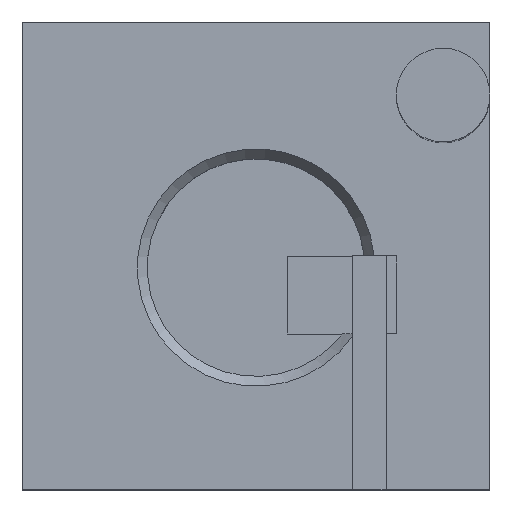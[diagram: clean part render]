
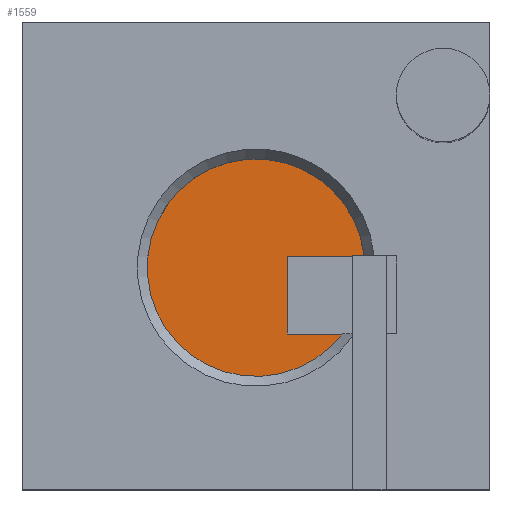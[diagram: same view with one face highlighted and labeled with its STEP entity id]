
A CAD part, top view. The second image highlights one B-rep face of the part: STEP entity #1559.
In plain terms, the highlighted planar face has unit normal (0, 0, 1).
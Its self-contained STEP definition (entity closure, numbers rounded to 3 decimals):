
#249 = PLANE('',#250);
#250 = AXIS2_PLACEMENT_3D('',#251,#252,#253);
#251 = CARTESIAN_POINT('',(-82.618,-32.6,-12.3));
#252 = DIRECTION('',(1.,0.,-0.));
#253 = DIRECTION('',(0.,0.,1.));
#471 = PLANE('',#472);
#472 = AXIS2_PLACEMENT_3D('',#473,#474,#475);
#473 = CARTESIAN_POINT('',(-82.618,1.6,-12.3));
#474 = DIRECTION('',(-0.,1.,0.));
#475 = DIRECTION('',(0.,0.,1.));
#827 = VERTEX_POINT('',#828);
#828 = CARTESIAN_POINT('',(-82.618,1.6,-9.));
#849 = EDGE_CURVE('',#850,#827,#852,.T.);
#850 = VERTEX_POINT('',#851);
#851 = CARTESIAN_POINT('',(-82.618,1.5,-9.));
#852 = SURFACE_CURVE('',#853,(#857,#863),.PCURVE_S1.);
#853 = LINE('',#854,#855);
#854 = CARTESIAN_POINT('',(-82.618,-16.3,-9.));
#855 = VECTOR('',#856,1.);
#856 = DIRECTION('',(-0.,1.,0.));
#857 = PCURVE('',#249,#858);
#858 = DEFINITIONAL_REPRESENTATION('',(#859),#862);
#859 = B_SPLINE_CURVE_WITH_KNOTS('',1,(#860,#861),.UNSPECIFIED.,.F.,.F.,
  (2,2),(2.35,17.9),.PIECEWISE_BEZIER_KNOTS.);
#860 = CARTESIAN_POINT('',(3.3,-18.65));
#861 = CARTESIAN_POINT('',(3.3,-34.2));
#862 = ( GEOMETRIC_REPRESENTATION_CONTEXT(2) 
PARAMETRIC_REPRESENTATION_CONTEXT() REPRESENTATION_CONTEXT('2D SPACE',''
  ) );
#863 = PCURVE('',#864,#869);
#864 = PLANE('',#865);
#865 = AXIS2_PLACEMENT_3D('',#866,#867,#868);
#866 = CARTESIAN_POINT('',(-95.,0.,-9.));
#867 = DIRECTION('',(0.,0.,1.));
#868 = DIRECTION('',(1.,0.,-0.));
#869 = DEFINITIONAL_REPRESENTATION('',(#870),#873);
#870 = B_SPLINE_CURVE_WITH_KNOTS('',1,(#871,#872),.UNSPECIFIED.,.F.,.F.,
  (2,2),(2.35,17.9),.PIECEWISE_BEZIER_KNOTS.);
#871 = CARTESIAN_POINT('',(12.382,-13.95));
#872 = CARTESIAN_POINT('',(12.382,1.6));
#873 = ( GEOMETRIC_REPRESENTATION_CONTEXT(2) 
PARAMETRIC_REPRESENTATION_CONTEXT() REPRESENTATION_CONTEXT('2D SPACE',''
  ) );
#890 = PLANE('',#891);
#891 = AXIS2_PLACEMENT_3D('',#892,#893,#894);
#892 = CARTESIAN_POINT('',(-91.,1.5,-9.2));
#893 = DIRECTION('',(-0.,1.,0.));
#894 = DIRECTION('',(0.,0.,1.));
#942 = PLANE('',#943);
#943 = AXIS2_PLACEMENT_3D('',#944,#945,#946);
#944 = CARTESIAN_POINT('',(-91.,-8.5,-9.2));
#945 = DIRECTION('',(-0.,1.,0.));
#946 = DIRECTION('',(0.,0.,1.));
#984 = EDGE_CURVE('',#985,#827,#987,.T.);
#985 = VERTEX_POINT('',#986);
#986 = CARTESIAN_POINT('',(-81.142,1.6,-9.));
#987 = SURFACE_CURVE('',#988,(#992,#998),.PCURVE_S1.);
#988 = LINE('',#989,#990);
#989 = CARTESIAN_POINT('',(-88.809,1.6,-9.));
#990 = VECTOR('',#991,1.);
#991 = DIRECTION('',(-1.,-0.,0.));
#992 = PCURVE('',#471,#993);
#993 = DEFINITIONAL_REPRESENTATION('',(#994),#997);
#994 = B_SPLINE_CURVE_WITH_KNOTS('',1,(#995,#996),.UNSPECIFIED.,.F.,.F.,
  (2,2),(-7.759,-6.191),.PIECEWISE_BEZIER_KNOTS.);
#995 = CARTESIAN_POINT('',(3.3,1.568));
#996 = CARTESIAN_POINT('',(3.3,0.));
#997 = ( GEOMETRIC_REPRESENTATION_CONTEXT(2) 
PARAMETRIC_REPRESENTATION_CONTEXT() REPRESENTATION_CONTEXT('2D SPACE',''
  ) );
#998 = PCURVE('',#864,#999);
#999 = DEFINITIONAL_REPRESENTATION('',(#1000),#1003);
#1000 = B_SPLINE_CURVE_WITH_KNOTS('',1,(#1001,#1002),.UNSPECIFIED.,.F.,
  .F.,(2,2),(-7.759,-6.191),.PIECEWISE_BEZIER_KNOTS.);
#1001 = CARTESIAN_POINT('',(13.95,1.6));
#1002 = CARTESIAN_POINT('',(12.382,1.6));
#1003 = ( GEOMETRIC_REPRESENTATION_CONTEXT(2) 
PARAMETRIC_REPRESENTATION_CONTEXT() REPRESENTATION_CONTEXT('2D SPACE',''
  ) );
#1020 = CYLINDRICAL_SURFACE('',#1021,13.95);
#1021 = AXIS2_PLACEMENT_3D('',#1022,#1023,#1024);
#1022 = CARTESIAN_POINT('',(-95.,0.,-9.));
#1023 = DIRECTION('',(0.,0.,1.));
#1024 = DIRECTION('',(1.,0.,-0.));
#1395 = VERTEX_POINT('',#1396);
#1396 = CARTESIAN_POINT('',(-91.,-8.5,-9.));
#1410 = PLANE('',#1411);
#1411 = AXIS2_PLACEMENT_3D('',#1412,#1413,#1414);
#1412 = CARTESIAN_POINT('',(-91.,-8.5,-9.2));
#1413 = DIRECTION('',(1.,0.,-0.));
#1414 = DIRECTION('',(0.,0.,1.));
#1422 = EDGE_CURVE('',#1423,#1395,#1425,.T.);
#1423 = VERTEX_POINT('',#1424);
#1424 = CARTESIAN_POINT('',(-83.939,-8.5,-9.));
#1425 = SURFACE_CURVE('',#1426,(#1430,#1436),.PCURVE_S1.);
#1426 = LINE('',#1427,#1428);
#1427 = CARTESIAN_POINT('',(-93.,-8.5,-9.));
#1428 = VECTOR('',#1429,1.);
#1429 = DIRECTION('',(-1.,-0.,0.));
#1430 = PCURVE('',#942,#1431);
#1431 = DEFINITIONAL_REPRESENTATION('',(#1432),#1435);
#1432 = B_SPLINE_CURVE_WITH_KNOTS('',1,(#1433,#1434),.UNSPECIFIED.,.F.,
  .F.,(2,2),(-10.382,-2.),.PIECEWISE_BEZIER_KNOTS.);
#1433 = CARTESIAN_POINT('',(0.2,8.382));
#1434 = CARTESIAN_POINT('',(0.2,0.));
#1435 = ( GEOMETRIC_REPRESENTATION_CONTEXT(2) 
PARAMETRIC_REPRESENTATION_CONTEXT() REPRESENTATION_CONTEXT('2D SPACE',''
  ) );
#1436 = PCURVE('',#864,#1437);
#1437 = DEFINITIONAL_REPRESENTATION('',(#1438),#1441);
#1438 = B_SPLINE_CURVE_WITH_KNOTS('',1,(#1439,#1440),.UNSPECIFIED.,.F.,
  .F.,(2,2),(-10.382,-2.),.PIECEWISE_BEZIER_KNOTS.);
#1439 = CARTESIAN_POINT('',(12.382,-8.5));
#1440 = CARTESIAN_POINT('',(4.,-8.5));
#1441 = ( GEOMETRIC_REPRESENTATION_CONTEXT(2) 
PARAMETRIC_REPRESENTATION_CONTEXT() REPRESENTATION_CONTEXT('2D SPACE',''
  ) );
#1518 = VERTEX_POINT('',#1519);
#1519 = CARTESIAN_POINT('',(-91.,1.5,-9.));
#1540 = EDGE_CURVE('',#850,#1518,#1541,.T.);
#1541 = SURFACE_CURVE('',#1542,(#1546,#1552),.PCURVE_S1.);
#1542 = LINE('',#1543,#1544);
#1543 = CARTESIAN_POINT('',(-93.,1.5,-9.));
#1544 = VECTOR('',#1545,1.);
#1545 = DIRECTION('',(-1.,-0.,0.));
#1546 = PCURVE('',#890,#1547);
#1547 = DEFINITIONAL_REPRESENTATION('',(#1548),#1551);
#1548 = B_SPLINE_CURVE_WITH_KNOTS('',1,(#1549,#1550),.UNSPECIFIED.,.F.,
  .F.,(2,2),(-10.382,-2.),.PIECEWISE_BEZIER_KNOTS.);
#1549 = CARTESIAN_POINT('',(0.2,8.382));
#1550 = CARTESIAN_POINT('',(0.2,0.));
#1551 = ( GEOMETRIC_REPRESENTATION_CONTEXT(2) 
PARAMETRIC_REPRESENTATION_CONTEXT() REPRESENTATION_CONTEXT('2D SPACE',''
  ) );
#1552 = PCURVE('',#864,#1553);
#1553 = DEFINITIONAL_REPRESENTATION('',(#1554),#1557);
#1554 = B_SPLINE_CURVE_WITH_KNOTS('',1,(#1555,#1556),.UNSPECIFIED.,.F.,
  .F.,(2,2),(-10.382,-2.),.PIECEWISE_BEZIER_KNOTS.);
#1555 = CARTESIAN_POINT('',(12.382,1.5));
#1556 = CARTESIAN_POINT('',(4.,1.5));
#1557 = ( GEOMETRIC_REPRESENTATION_CONTEXT(2) 
PARAMETRIC_REPRESENTATION_CONTEXT() REPRESENTATION_CONTEXT('2D SPACE',''
  ) );
#1559 = ADVANCED_FACE('',(#1560),#864,.T.);
#1560 = FACE_BOUND('',#1561,.T.);
#1561 = EDGE_LOOP('',(#1562,#1563,#1585,#1586,#1605,#1606));
#1562 = ORIENTED_EDGE('',*,*,#984,.F.);
#1563 = ORIENTED_EDGE('',*,*,#1564,.T.);
#1564 = EDGE_CURVE('',#985,#1423,#1565,.T.);
#1565 = SURFACE_CURVE('',#1566,(#1571,#1578),.PCURVE_S1.);
#1566 = CIRCLE('',#1567,13.95);
#1567 = AXIS2_PLACEMENT_3D('',#1568,#1569,#1570);
#1568 = CARTESIAN_POINT('',(-95.,0.,-9.));
#1569 = DIRECTION('',(0.,0.,1.));
#1570 = DIRECTION('',(1.,0.,-0.));
#1571 = PCURVE('',#864,#1572);
#1572 = DEFINITIONAL_REPRESENTATION('',(#1573),#1577);
#1573 = CIRCLE('',#1574,13.95);
#1574 = AXIS2_PLACEMENT_2D('',#1575,#1576);
#1575 = CARTESIAN_POINT('',(0.,0.));
#1576 = DIRECTION('',(1.,0.));
#1577 = ( GEOMETRIC_REPRESENTATION_CONTEXT(2) 
PARAMETRIC_REPRESENTATION_CONTEXT() REPRESENTATION_CONTEXT('2D SPACE',''
  ) );
#1578 = PCURVE('',#1020,#1579);
#1579 = DEFINITIONAL_REPRESENTATION('',(#1580),#1584);
#1580 = LINE('',#1581,#1582);
#1581 = CARTESIAN_POINT('',(0.,0.));
#1582 = VECTOR('',#1583,1.);
#1583 = DIRECTION('',(1.,0.));
#1584 = ( GEOMETRIC_REPRESENTATION_CONTEXT(2) 
PARAMETRIC_REPRESENTATION_CONTEXT() REPRESENTATION_CONTEXT('2D SPACE',''
  ) );
#1585 = ORIENTED_EDGE('',*,*,#1422,.T.);
#1586 = ORIENTED_EDGE('',*,*,#1587,.T.);
#1587 = EDGE_CURVE('',#1395,#1518,#1588,.T.);
#1588 = SURFACE_CURVE('',#1589,(#1593,#1599),.PCURVE_S1.);
#1589 = LINE('',#1590,#1591);
#1590 = CARTESIAN_POINT('',(-91.,-4.25,-9.));
#1591 = VECTOR('',#1592,1.);
#1592 = DIRECTION('',(-0.,1.,0.));
#1593 = PCURVE('',#864,#1594);
#1594 = DEFINITIONAL_REPRESENTATION('',(#1595),#1598);
#1595 = B_SPLINE_CURVE_WITH_KNOTS('',1,(#1596,#1597),.UNSPECIFIED.,.F.,
  .F.,(2,2),(-4.25,5.75),.PIECEWISE_BEZIER_KNOTS.);
#1596 = CARTESIAN_POINT('',(4.,-8.5));
#1597 = CARTESIAN_POINT('',(4.,1.5));
#1598 = ( GEOMETRIC_REPRESENTATION_CONTEXT(2) 
PARAMETRIC_REPRESENTATION_CONTEXT() REPRESENTATION_CONTEXT('2D SPACE',''
  ) );
#1599 = PCURVE('',#1410,#1600);
#1600 = DEFINITIONAL_REPRESENTATION('',(#1601),#1604);
#1601 = B_SPLINE_CURVE_WITH_KNOTS('',1,(#1602,#1603),.UNSPECIFIED.,.F.,
  .F.,(2,2),(-4.25,5.75),.PIECEWISE_BEZIER_KNOTS.);
#1602 = CARTESIAN_POINT('',(0.2,0.));
#1603 = CARTESIAN_POINT('',(0.2,-10.));
#1604 = ( GEOMETRIC_REPRESENTATION_CONTEXT(2) 
PARAMETRIC_REPRESENTATION_CONTEXT() REPRESENTATION_CONTEXT('2D SPACE',''
  ) );
#1605 = ORIENTED_EDGE('',*,*,#1540,.F.);
#1606 = ORIENTED_EDGE('',*,*,#849,.T.);
